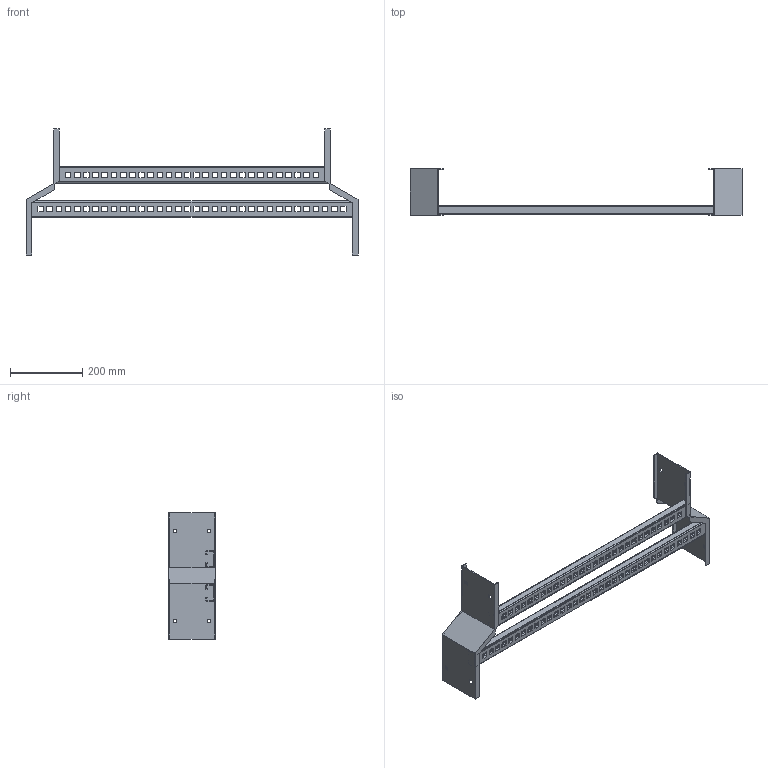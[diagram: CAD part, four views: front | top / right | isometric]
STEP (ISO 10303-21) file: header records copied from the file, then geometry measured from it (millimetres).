
FILE_DESCRIPTION((''),'2;1');
FILE_NAME('AUF53630LHSR_ASM','2010-01-27T',('erouzier'),(''),'PRO/ENGINEER BY PARAMETRIC TECHNOLOGY CORPORATION, 2008510','PRO/ENGINEER BY PARAMETRIC TECHNOLOGY CORPORATION, 2008510','');
FILE_SCHEMA(('CONFIG_CONTROL_DESIGN'));
Length unit declared in the file: inch
Products named in the file (4): CDS013866-5-30; CDS002159L36-P; CDS002159L30-P_AF1; AUF53630LHSR_ASM
Assembly tree (4 placements, depth 2):
  AUF53630LHSR_ASM
    CDS013866-5-30  x2
    CDS002159L36-P
    CDS002159L30-P_AF1
Bounding box: 918.97 x 129.03 x 348.79 mm (x, y, z)
Volume: 497042.8 mm3; surface area: 617256.1 mm2
Topology: 4 solids, 4 shells, 636 faces, 1872 edges, 1244 vertices
Faces by surface type: plane 366, cylinder 270
Entity records: 20408 total; most frequent: CARTESIAN_POINT 3542, ORIENTED_EDGE 3528, DIRECTION 3512, EDGE_CURVE 1764, VECTOR 1224, LINE 1224, VERTEX_POINT 1174, AXIS2_PLACEMENT_3D 1144
